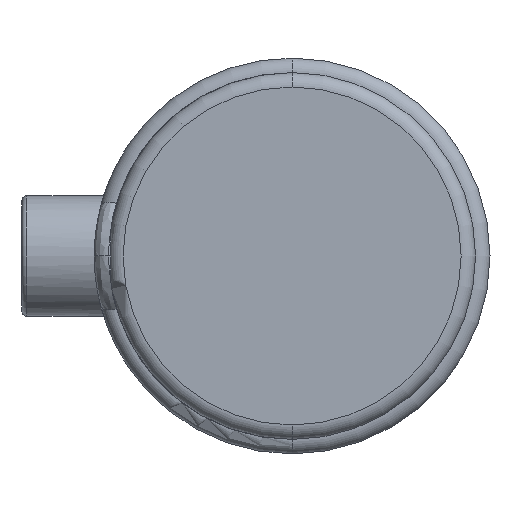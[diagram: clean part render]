
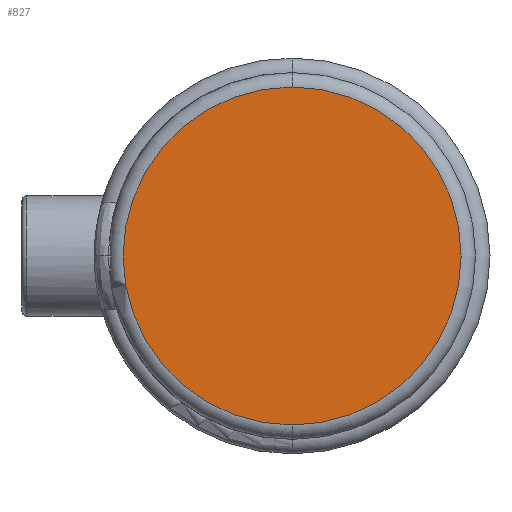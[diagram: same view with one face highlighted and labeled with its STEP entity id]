
A CAD part, left-side view. The second image highlights one B-rep face of the part: STEP entity #827.
In plain terms, the highlighted planar face has unit normal (-1, 0, 0).
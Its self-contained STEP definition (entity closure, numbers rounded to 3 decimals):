
#262 = ORIENTED_EDGE ( 'NONE', *, *, #2166, .T. ) ;
#435 = CARTESIAN_POINT ( 'NONE',  ( 0., 0., -35.1 ) ) ;
#795 = VERTEX_POINT ( 'NONE', #435 ) ;
#827 = ADVANCED_FACE ( 'NONE', ( #4380 ), #4500, .T. ) ;
#1482 = CARTESIAN_POINT ( 'NONE',  ( 0., 0., 0. ) ) ;
#1810 = DIRECTION ( 'NONE',  ( -1., 0., 0. ) ) ;
#1858 = CARTESIAN_POINT ( 'NONE',  ( 0., 0., 0. ) ) ;
#1943 = DIRECTION ( 'NONE',  ( 0., 0., 1. ) ) ;
#2166 = EDGE_CURVE ( 'NONE', #5632, #795, #5470, .T. ) ;
#2320 = DIRECTION ( 'NONE',  ( 0., 0., 1. ) ) ;
#2539 = AXIS2_PLACEMENT_3D ( 'NONE', #3575, #1810, #4943 ) ;
#3312 = CARTESIAN_POINT ( 'NONE',  ( 0., 0., 35.1 ) ) ;
#3360 = AXIS2_PLACEMENT_3D ( 'NONE', #1858, #4989, #2320 ) ;
#3399 = EDGE_LOOP ( 'NONE', ( #262, #5021 ) ) ;
#3575 = CARTESIAN_POINT ( 'NONE',  ( 0., 0., 0. ) ) ;
#3720 = EDGE_CURVE ( 'NONE', #795, #5632, #4764, .T. ) ;
#4380 = FACE_OUTER_BOUND ( 'NONE', #3399, .T. ) ;
#4500 = PLANE ( 'NONE',  #2539 ) ;
#4618 = DIRECTION ( 'NONE',  ( -1., 0., 0. ) ) ;
#4764 = CIRCLE ( 'NONE', #4836, 35.1 ) ;
#4836 = AXIS2_PLACEMENT_3D ( 'NONE', #1482, #4618, #1943 ) ;
#4943 = DIRECTION ( 'NONE',  ( 0., 0., 1. ) ) ;
#4989 = DIRECTION ( 'NONE',  ( -1., 0., 0. ) ) ;
#5021 = ORIENTED_EDGE ( 'NONE', *, *, #3720, .T. ) ;
#5470 = CIRCLE ( 'NONE', #3360, 35.1 ) ;
#5632 = VERTEX_POINT ( 'NONE', #3312 ) ;
